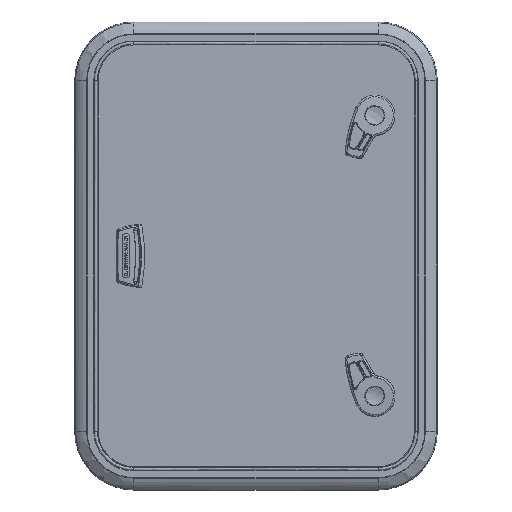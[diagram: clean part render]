
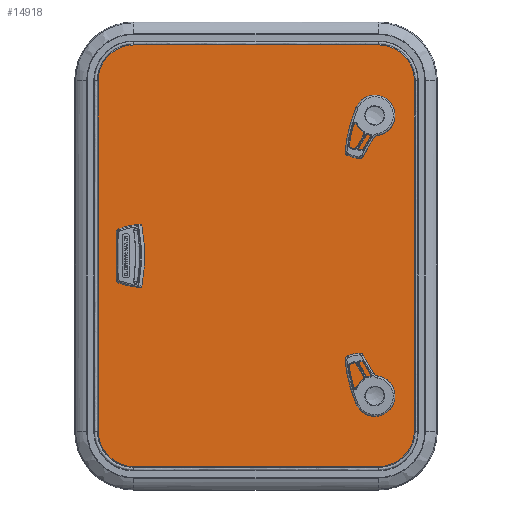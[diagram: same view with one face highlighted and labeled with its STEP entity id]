
A CAD part, top view. The second image highlights one B-rep face of the part: STEP entity #14918.
In plain terms, the highlighted planar face has unit normal (0, 0, 1) as drawn and (0, 1, 0) by its records, which use the part's own axes.
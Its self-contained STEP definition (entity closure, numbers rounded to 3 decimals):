
#13965=CARTESIAN_POINT('',(21.55,8.,-159.5));
#13966=DIRECTION('',(0.,-1.,0.));
#13967=DIRECTION('',(0.,0.,-1.));
#13968=AXIS2_PLACEMENT_3D('',#13965,#13966,#13967);
#13970=DIRECTION('',(1.,0.,0.));
#13971=VECTOR('',#13970,43.1);
#13972=CARTESIAN_POINT('',(-21.55,8.,-165.));
#13973=LINE('',#13972,#13971);
#13974=CARTESIAN_POINT('',(-21.55,8.,-159.5));
#13975=DIRECTION('',(0.,-1.,0.));
#13976=DIRECTION('',(0.,0.,1.));
#13977=AXIS2_PLACEMENT_3D('',#13974,#13975,#13976);
#13979=DIRECTION('',(-1.,0.,0.));
#13980=VECTOR('',#13979,43.1);
#13981=CARTESIAN_POINT('',(21.55,8.,-154.));
#13982=LINE('',#13981,#13980);
#13983=CARTESIAN_POINT('',(-168.198,8.,149.117));
#13984=DIRECTION('',(0.,-1.,0.));
#13985=DIRECTION('',(0.866,0.,-0.5));
#13986=AXIS2_PLACEMENT_3D('',#13983,#13984,#13985);
#13988=DIRECTION('',(0.5,0.,0.866));
#13989=VECTOR('',#13988,10.2);
#13990=CARTESIAN_POINT('',(-168.968,8.,137.783));
#13991=LINE('',#13990,#13989);
#13992=CARTESIAN_POINT('',(-173.298,8.,140.283));
#13993=DIRECTION('',(0.,-1.,0.));
#13994=DIRECTION('',(-0.5,0.,-0.866));
#13995=AXIS2_PLACEMENT_3D('',#13992,#13993,#13994);
#13997=DIRECTION('',(0.866,0.,-0.5));
#13998=VECTOR('',#13997,5.2);
#13999=CARTESIAN_POINT('',(-180.302,8.,138.553));
#14000=LINE('',#13999,#13998);
#14001=CARTESIAN_POINT('',(-177.802,8.,142.883));
#14002=DIRECTION('',(0.,-1.,0.));
#14003=DIRECTION('',(-0.866,0.,0.5));
#14004=AXIS2_PLACEMENT_3D('',#14001,#14002,#14003);
#14006=DIRECTION('',(-0.5,0.,-0.866));
#14007=VECTOR('',#14006,10.2);
#14008=CARTESIAN_POINT('',(-177.032,8.,154.217));
#14009=LINE('',#14008,#14007);
#14010=CARTESIAN_POINT('',(-172.702,8.,151.717));
#14011=DIRECTION('',(0.,-1.,0.));
#14012=DIRECTION('',(0.5,0.,0.866));
#14013=AXIS2_PLACEMENT_3D('',#14010,#14011,#14012);
#14015=DIRECTION('',(-0.866,0.,0.5));
#14016=VECTOR('',#14015,5.2);
#14017=CARTESIAN_POINT('',(-165.698,8.,153.447));
#14018=LINE('',#14017,#14016);
#14019=CARTESIAN_POINT('',(168.198,8.,149.117));
#14020=DIRECTION('',(0.,1.,0.));
#14021=DIRECTION('',(-0.866,0.,-0.5));
#14022=AXIS2_PLACEMENT_3D('',#14019,#14020,#14021);
#14024=DIRECTION('',(0.866,0.,0.5));
#14025=VECTOR('',#14024,5.2);
#14026=CARTESIAN_POINT('',(165.698,8.,153.447));
#14027=LINE('',#14026,#14025);
#14028=CARTESIAN_POINT('',(172.702,8.,151.717));
#14029=DIRECTION('',(0.,1.,0.));
#14030=DIRECTION('',(-0.5,0.,0.866));
#14031=AXIS2_PLACEMENT_3D('',#14028,#14029,#14030);
#14033=DIRECTION('',(0.5,0.,-0.866));
#14034=VECTOR('',#14033,10.2);
#14035=CARTESIAN_POINT('',(177.032,8.,154.217));
#14036=LINE('',#14035,#14034);
#14037=CARTESIAN_POINT('',(177.802,8.,142.883));
#14038=DIRECTION('',(0.,1.,0.));
#14039=DIRECTION('',(0.866,0.,0.5));
#14040=AXIS2_PLACEMENT_3D('',#14037,#14038,#14039);
#14042=DIRECTION('',(-0.866,0.,-0.5));
#14043=VECTOR('',#14042,5.2);
#14044=CARTESIAN_POINT('',(180.302,8.,138.553));
#14045=LINE('',#14044,#14043);
#14046=CARTESIAN_POINT('',(173.298,8.,140.283));
#14047=DIRECTION('',(0.,1.,0.));
#14048=DIRECTION('',(0.5,0.,-0.866));
#14049=AXIS2_PLACEMENT_3D('',#14046,#14047,#14048);
#14051=DIRECTION('',(-0.5,0.,0.866));
#14052=VECTOR('',#14051,10.2);
#14053=CARTESIAN_POINT('',(168.968,8.,137.783));
#14054=LINE('',#14053,#14052);
#14055=DIRECTION('',(-1.,0.,0.));
#14056=VECTOR('',#14055,431.);
#14057=CARTESIAN_POINT('',(215.5,8.,-195.));
#14058=LINE('',#14057,#14056);
#14059=CARTESIAN_POINT('',(215.5,8.,-150.5));
#14060=DIRECTION('',(0.,1.,0.));
#14061=DIRECTION('',(1.,0.,0.));
#14062=AXIS2_PLACEMENT_3D('',#14059,#14060,#14061);
#14064=DIRECTION('',(0.,0.,-1.));
#14065=VECTOR('',#14064,301.);
#14066=CARTESIAN_POINT('',(260.,8.,150.5));
#14067=LINE('',#14066,#14065);
#14068=CARTESIAN_POINT('',(215.5,8.,150.5));
#14069=DIRECTION('',(0.,1.,0.));
#14070=DIRECTION('',(0.,0.,1.));
#14071=AXIS2_PLACEMENT_3D('',#14068,#14069,#14070);
#14073=DIRECTION('',(1.,0.,0.));
#14074=VECTOR('',#14073,431.);
#14075=CARTESIAN_POINT('',(-215.5,8.,195.));
#14076=LINE('',#14075,#14074);
#14077=CARTESIAN_POINT('',(-215.5,8.,150.5));
#14078=DIRECTION('',(0.,1.,0.));
#14079=DIRECTION('',(-1.,0.,0.));
#14080=AXIS2_PLACEMENT_3D('',#14077,#14078,#14079);
#14082=DIRECTION('',(0.,0.,1.));
#14083=VECTOR('',#14082,301.);
#14084=CARTESIAN_POINT('',(-260.,8.,-150.5));
#14085=LINE('',#14084,#14083);
#14086=CARTESIAN_POINT('',(-215.5,8.,-150.5));
#14087=DIRECTION('',(0.,1.,0.));
#14088=DIRECTION('',(0.,0.,-1.));
#14089=AXIS2_PLACEMENT_3D('',#14086,#14087,#14088);
#14330=CARTESIAN_POINT('',(21.55,8.,-165.));
#14331=CARTESIAN_POINT('',(21.55,8.,-154.));
#14332=VERTEX_POINT('',#14330);
#14333=VERTEX_POINT('',#14331);
#14334=CARTESIAN_POINT('',(-21.55,8.,-154.));
#14335=VERTEX_POINT('',#14334);
#14336=CARTESIAN_POINT('',(-21.55,8.,-165.));
#14337=VERTEX_POINT('',#14336);
#14386=CARTESIAN_POINT('',(-163.868,8.,146.617));
#14387=CARTESIAN_POINT('',(-165.698,8.,153.447));
#14388=VERTEX_POINT('',#14386);
#14389=VERTEX_POINT('',#14387);
#14390=CARTESIAN_POINT('',(-170.202,8.,156.047));
#14391=VERTEX_POINT('',#14390);
#14392=CARTESIAN_POINT('',(-177.032,8.,154.217));
#14393=VERTEX_POINT('',#14392);
#14394=CARTESIAN_POINT('',(-182.132,8.,145.383));
#14395=VERTEX_POINT('',#14394);
#14396=CARTESIAN_POINT('',(-180.302,8.,138.553));
#14397=VERTEX_POINT('',#14396);
#14398=CARTESIAN_POINT('',(-175.798,8.,135.953));
#14399=VERTEX_POINT('',#14398);
#14400=CARTESIAN_POINT('',(-168.968,8.,137.783));
#14401=VERTEX_POINT('',#14400);
#14418=CARTESIAN_POINT('',(163.868,8.,146.617));
#14419=CARTESIAN_POINT('',(165.698,8.,153.447));
#14420=VERTEX_POINT('',#14418);
#14421=VERTEX_POINT('',#14419);
#14422=CARTESIAN_POINT('',(170.202,8.,156.047));
#14423=VERTEX_POINT('',#14422);
#14424=CARTESIAN_POINT('',(177.032,8.,154.217));
#14425=VERTEX_POINT('',#14424);
#14426=CARTESIAN_POINT('',(182.132,8.,145.383));
#14427=VERTEX_POINT('',#14426);
#14428=CARTESIAN_POINT('',(180.302,8.,138.553));
#14429=VERTEX_POINT('',#14428);
#14430=CARTESIAN_POINT('',(175.798,8.,135.953));
#14431=VERTEX_POINT('',#14430);
#14432=CARTESIAN_POINT('',(168.968,8.,137.783));
#14433=VERTEX_POINT('',#14432);
#14434=CARTESIAN_POINT('',(215.5,8.,-195.));
#14435=CARTESIAN_POINT('',(-215.5,8.,-195.));
#14436=VERTEX_POINT('',#14434);
#14437=VERTEX_POINT('',#14435);
#14438=CARTESIAN_POINT('',(-260.,8.,-150.5));
#14439=VERTEX_POINT('',#14438);
#14440=CARTESIAN_POINT('',(-260.,8.,150.5));
#14441=VERTEX_POINT('',#14440);
#14442=CARTESIAN_POINT('',(-215.5,8.,195.));
#14443=VERTEX_POINT('',#14442);
#14444=CARTESIAN_POINT('',(215.5,8.,195.));
#14445=VERTEX_POINT('',#14444);
#14446=CARTESIAN_POINT('',(260.,8.,150.5));
#14447=VERTEX_POINT('',#14446);
#14448=CARTESIAN_POINT('',(260.,8.,-150.5));
#14449=VERTEX_POINT('',#14448);
#14850=CARTESIAN_POINT('',(0.,8.,0.));
#14851=DIRECTION('',(0.,1.,0.));
#14852=DIRECTION('',(1.,0.,0.));
#14853=AXIS2_PLACEMENT_3D('',#14850,#14851,#14852);
#14854=PLANE('',#14853);
#14856=ORIENTED_EDGE('',*,*,#14855,.F.);
#14858=ORIENTED_EDGE('',*,*,#14857,.F.);
#14860=ORIENTED_EDGE('',*,*,#14859,.F.);
#14861=ORIENTED_EDGE('',*,*,#14840,.F.);
#14863=ORIENTED_EDGE('',*,*,#14862,.F.);
#14865=ORIENTED_EDGE('',*,*,#14864,.F.);
#14867=ORIENTED_EDGE('',*,*,#14866,.F.);
#14869=ORIENTED_EDGE('',*,*,#14868,.F.);
#14870=EDGE_LOOP('',(#14856,#14858,#14860,#14861,#14863,#14865,#14867,#14869));
#14871=FACE_OUTER_BOUND('',#14870,.F.);
#14873=ORIENTED_EDGE('',*,*,#14872,.F.);
#14875=ORIENTED_EDGE('',*,*,#14874,.F.);
#14877=ORIENTED_EDGE('',*,*,#14876,.F.);
#14879=ORIENTED_EDGE('',*,*,#14878,.F.);
#14880=EDGE_LOOP('',(#14873,#14875,#14877,#14879));
#14881=FACE_BOUND('',#14880,.F.);
#14883=ORIENTED_EDGE('',*,*,#14882,.F.);
#14885=ORIENTED_EDGE('',*,*,#14884,.F.);
#14887=ORIENTED_EDGE('',*,*,#14886,.F.);
#14889=ORIENTED_EDGE('',*,*,#14888,.F.);
#14891=ORIENTED_EDGE('',*,*,#14890,.F.);
#14893=ORIENTED_EDGE('',*,*,#14892,.F.);
#14895=ORIENTED_EDGE('',*,*,#14894,.F.);
#14897=ORIENTED_EDGE('',*,*,#14896,.F.);
#14898=EDGE_LOOP('',(#14883,#14885,#14887,#14889,#14891,#14893,#14895,#14897));
#14899=FACE_BOUND('',#14898,.F.);
#14901=ORIENTED_EDGE('',*,*,#14900,.T.);
#14903=ORIENTED_EDGE('',*,*,#14902,.T.);
#14905=ORIENTED_EDGE('',*,*,#14904,.T.);
#14907=ORIENTED_EDGE('',*,*,#14906,.T.);
#14909=ORIENTED_EDGE('',*,*,#14908,.T.);
#14911=ORIENTED_EDGE('',*,*,#14910,.T.);
#14913=ORIENTED_EDGE('',*,*,#14912,.T.);
#14915=ORIENTED_EDGE('',*,*,#14914,.T.);
#14916=EDGE_LOOP('',(#14901,#14903,#14905,#14907,#14909,#14911,#14913,#14915));
#14917=FACE_BOUND('',#14916,.F.);
#14918=ADVANCED_FACE('',(#14871,#14881,#14899,#14917),#14854,.T.);
#13969=CIRCLE('',#13968,5.5);
#13978=CIRCLE('',#13977,5.5);
#13987=CIRCLE('',#13986,5.);
#13996=CIRCLE('',#13995,5.);
#14005=CIRCLE('',#14004,5.);
#14014=CIRCLE('',#14013,5.);
#14023=CIRCLE('',#14022,5.);
#14032=CIRCLE('',#14031,5.);
#14041=CIRCLE('',#14040,5.);
#14050=CIRCLE('',#14049,5.);
#14063=CIRCLE('',#14062,44.5);
#14072=CIRCLE('',#14071,44.5);
#14081=CIRCLE('',#14080,44.5);
#14090=CIRCLE('',#14089,44.5);
#14840=EDGE_CURVE('',#14445,#14447,#14072,.T.);
#14855=EDGE_CURVE('',#14436,#14437,#14058,.T.);
#14857=EDGE_CURVE('',#14449,#14436,#14063,.T.);
#14859=EDGE_CURVE('',#14447,#14449,#14067,.T.);
#14862=EDGE_CURVE('',#14443,#14445,#14076,.T.);
#14864=EDGE_CURVE('',#14441,#14443,#14081,.T.);
#14866=EDGE_CURVE('',#14439,#14441,#14085,.T.);
#14868=EDGE_CURVE('',#14437,#14439,#14090,.T.);
#14872=EDGE_CURVE('',#14332,#14333,#13969,.T.);
#14874=EDGE_CURVE('',#14337,#14332,#13973,.T.);
#14876=EDGE_CURVE('',#14335,#14337,#13978,.T.);
#14878=EDGE_CURVE('',#14333,#14335,#13982,.T.);
#14882=EDGE_CURVE('',#14388,#14389,#13987,.T.);
#14884=EDGE_CURVE('',#14401,#14388,#13991,.T.);
#14886=EDGE_CURVE('',#14399,#14401,#13996,.T.);
#14888=EDGE_CURVE('',#14397,#14399,#14000,.T.);
#14890=EDGE_CURVE('',#14395,#14397,#14005,.T.);
#14892=EDGE_CURVE('',#14393,#14395,#14009,.T.);
#14894=EDGE_CURVE('',#14391,#14393,#14014,.T.);
#14896=EDGE_CURVE('',#14389,#14391,#14018,.T.);
#14900=EDGE_CURVE('',#14420,#14421,#14023,.T.);
#14902=EDGE_CURVE('',#14421,#14423,#14027,.T.);
#14904=EDGE_CURVE('',#14423,#14425,#14032,.T.);
#14906=EDGE_CURVE('',#14425,#14427,#14036,.T.);
#14908=EDGE_CURVE('',#14427,#14429,#14041,.T.);
#14910=EDGE_CURVE('',#14429,#14431,#14045,.T.);
#14912=EDGE_CURVE('',#14431,#14433,#14050,.T.);
#14914=EDGE_CURVE('',#14433,#14420,#14054,.T.);
